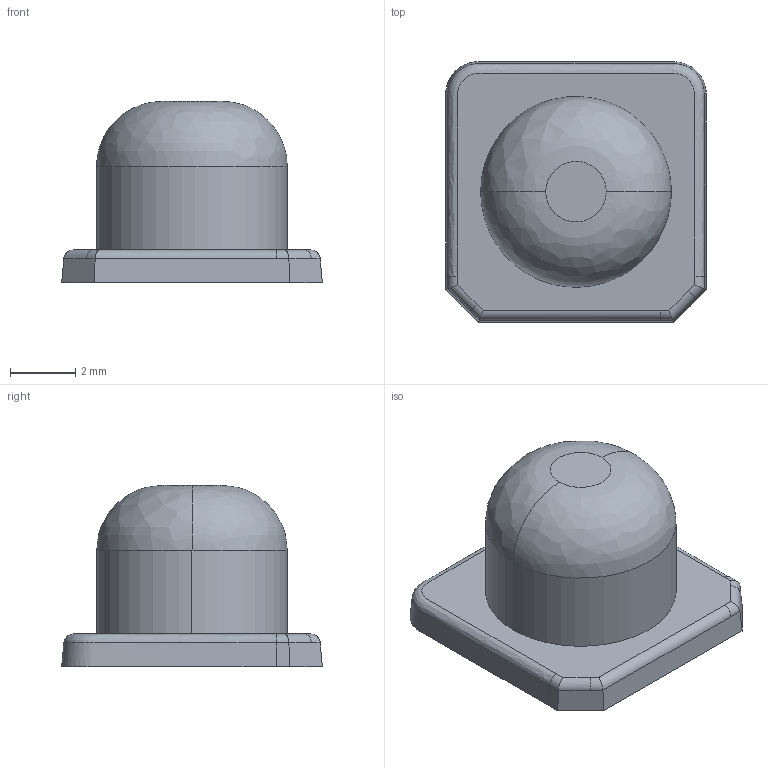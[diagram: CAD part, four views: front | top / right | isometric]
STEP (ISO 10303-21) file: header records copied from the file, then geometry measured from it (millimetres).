
FILE_DESCRIPTION(/* description */ (''),/* implementation_level */ '2;1');
FILE_NAME(/* name */ '230907_AL-50M-276（refarence_model）',/* time_stamp */ '2023-09-07T10:39:06+09:00',/* author */ (''),/* organization */ (''),/* preprocessor_version */ 'ST-DEVELOPER v16.5',/* originating_system */ 'Rhino 7.26',/* authorisation */ '');
FILE_SCHEMA (('CONFIG_CONTROL_DESIGN'));
Length unit declared in the file: millimetre
Products named in the file (1): Document
Bounding box: 8 x 8 x 5.56 mm (x, y, z)
Volume: 147.5 mm3; surface area: 236 mm2
Topology: 1 solids, 1 shells, 67 faces, 169 edges, 105 vertices
Faces by surface type: plane 43, bspline 14, cylinder 10
Entity records: 2231 total; most frequent: CARTESIAN_POINT 1051, ORIENTED_EDGE 334, EDGE_CURVE 167, B_SPLINE_CURVE_WITH_KNOTS 116, VERTEX_POINT 105, EDGE_LOOP 70, ADVANCED_FACE 67, FACE_OUTER_BOUND 67
